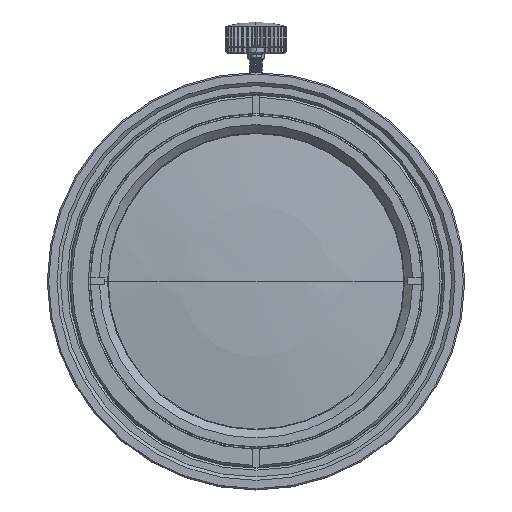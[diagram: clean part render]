
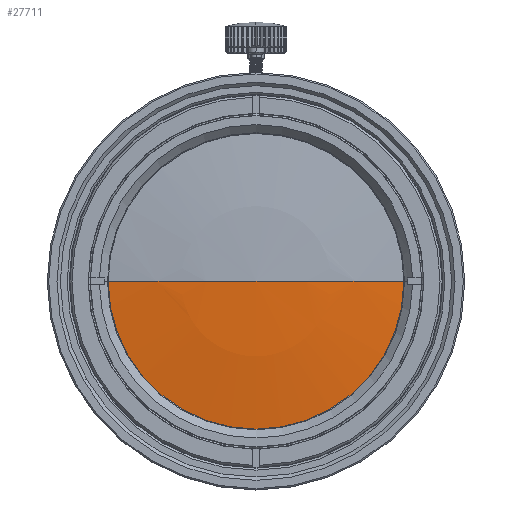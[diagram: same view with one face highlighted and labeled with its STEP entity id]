
A CAD part, left-side view. The second image highlights one B-rep face of the part: STEP entity #27711.
In plain terms, the highlighted spherical face has radius 172.518 mm.
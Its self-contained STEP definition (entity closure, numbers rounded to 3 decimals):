
#27606=CARTESIAN_POINT('',(109.099,0.,0.));
#27607=DIRECTION('',(0.,0.,-1.));
#27608=DIRECTION('',(-0.992,-0.127,0.));
#27609=AXIS2_PLACEMENT_3D('',#27606,#27607,#27608);
#27611=CARTESIAN_POINT('',(109.099,0.,0.));
#27612=DIRECTION('',(0.,0.,-1.));
#27613=DIRECTION('',(-1.,0.,0.));
#27614=AXIS2_PLACEMENT_3D('',#27611,#27612,#27613);
#27629=CARTESIAN_POINT('',(-62.023,0.,0.));
#27630=DIRECTION('',(-1.,0.,0.));
#27631=DIRECTION('',(0.,1.,0.));
#27632=AXIS2_PLACEMENT_3D('',#27629,#27630,#27631);
#27680=CARTESIAN_POINT('',(-62.023,-21.9,0.));
#27681=CARTESIAN_POINT('',(-63.418,0.,0.));
#27682=VERTEX_POINT('',#27680);
#27683=VERTEX_POINT('',#27681);
#27684=CARTESIAN_POINT('',(-62.023,21.9,0.));
#27685=VERTEX_POINT('',#27684);
#27698=CARTESIAN_POINT('',(109.099,0.,0.));
#27699=DIRECTION('',(1.,0.,0.));
#27700=DIRECTION('',(0.,-1.,0.));
#27701=AXIS2_PLACEMENT_3D('',#27698,#27699,#27700);
#27702=SPHERICAL_SURFACE('',#27701,172.518);
#27704=ORIENTED_EDGE('',*,*,#27703,.F.);
#27706=ORIENTED_EDGE('',*,*,#27705,.F.);
#27708=ORIENTED_EDGE('',*,*,#27707,.F.);
#27709=EDGE_LOOP('',(#27704,#27706,#27708));
#27710=FACE_OUTER_BOUND('',#27709,.F.);
#27610=CIRCLE('',#27609,172.518);
#27615=CIRCLE('',#27614,172.518);
#27633=CIRCLE('',#27632,21.9);
#27703=EDGE_CURVE('',#27682,#27683,#27610,.T.);
#27705=EDGE_CURVE('',#27685,#27682,#27633,.T.);
#27707=EDGE_CURVE('',#27683,#27685,#27615,.T.);
#27711=ADVANCED_FACE('',(#27710),#27702,.T.);
